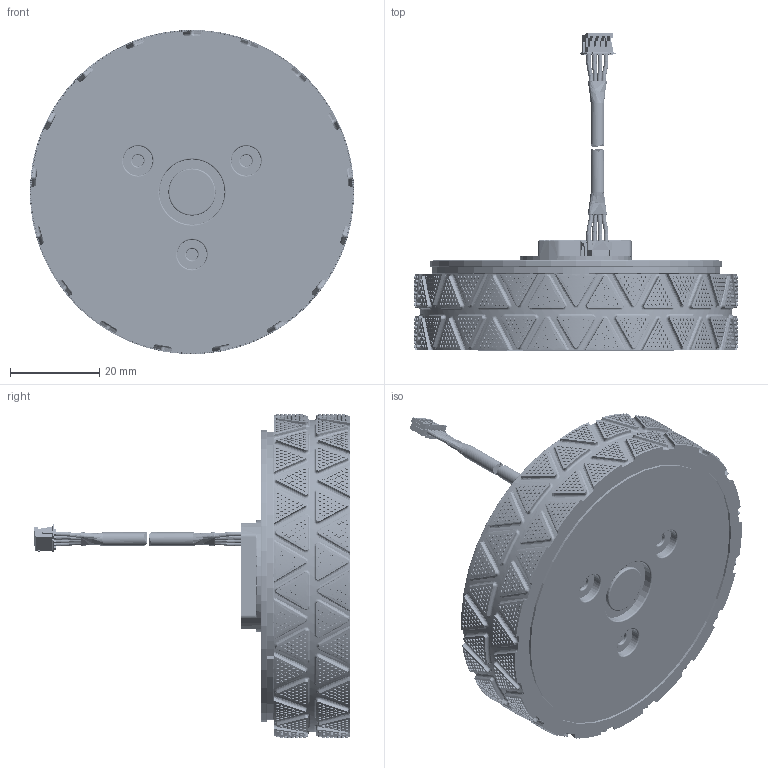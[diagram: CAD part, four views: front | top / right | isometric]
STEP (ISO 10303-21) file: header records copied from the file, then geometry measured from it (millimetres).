
FILE_DESCRIPTION (( 'STEP AP214' ), '1' );
FILE_NAME ('M0603C_211 外形图 2023年12月13日.STEP', '2023-12-13T08:30:26', ( '' ), ( '' ), 'SwSTEP 2.0', 'SolidWorks 2018', '' );
FILE_SCHEMA (( 'AUTOMOTIVE_DESIGN' ));
Length unit declared in the file: millimetre
Products named in the file (1): M0603C_211 外形图 2023年12月13日
Bounding box: 72.6 x 70.95 x 72.6 mm (x, y, z)
Surface area: 18570.3 mm2 (no closed solid volume)
Topology: 0 solids, 59 shells, 8293 faces, 18465 edges, 12083 vertices
Faces by surface type: bspline 5710, cylinder 2228, plane 254, torus 96, cone 5
Entity records: 623800 total; most frequent: CARTESIAN_POINT 398560, ORIENTED_EDGE 36352, EDGE_CURVE 18465, B_SPLINE_CURVE_WITH_KNOTS 16451, VERTEX_POINT 12083, EDGE_LOOP 10259, UNCERTAINTY_MEASURE_WITH_UNIT 8299, FILL_AREA_STYLE_COLOUR 8298
